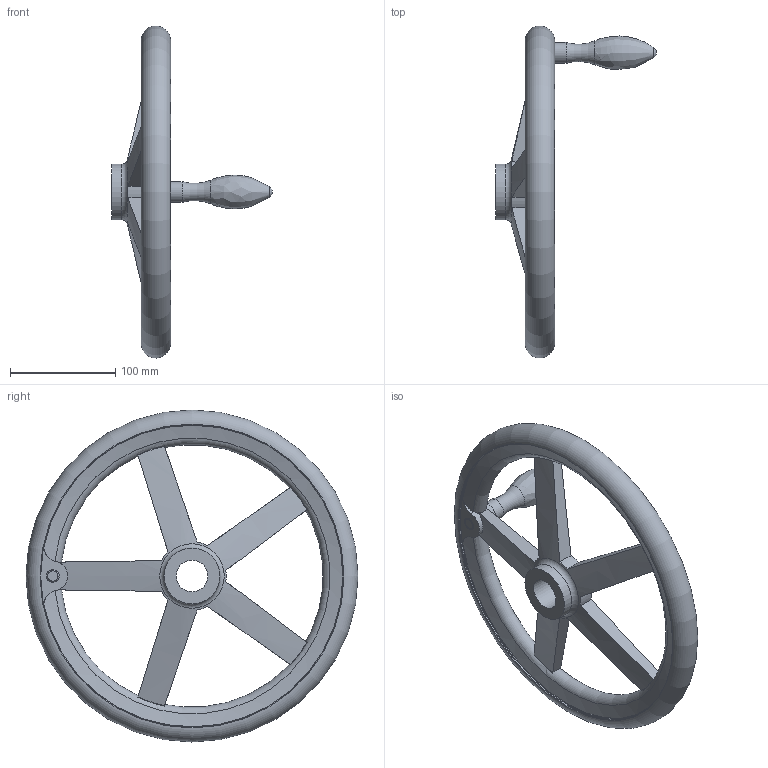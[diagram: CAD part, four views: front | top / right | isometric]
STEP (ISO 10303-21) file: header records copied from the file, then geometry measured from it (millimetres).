
FILE_DESCRIPTION( ( 'STEP AP203' ), '1' );
FILE_NAME( 'C:/Temp/Ganter_Step_05_03_2020/data/1_3/din_950/din_950_b/din_950_b_f/Handwheel DIN 950-GG-315-B30-F.stp', '2020-03-05T10:30:20', ( 'License CC BY-ND 4.0' ), ( 'CADENAS' ), ' ', 'PARTsolutions', ' ' );
FILE_SCHEMA( ( 'CONFIG_CONTROL_DESIGN' ) );
Length unit declared in the file: millimetre
Products named in the file (1): _Handwheel DIN 950-GG-315-B30-F
Bounding box: 152.5 x 314.93 x 314.93 mm (x, y, z)
Volume: 849391.7 mm3; surface area: 143329.6 mm2
Topology: 1 solids, 1 shells, 61 faces, 179 edges, 115 vertices
Faces by surface type: torus 21, cylinder 18, plane 15, cone 5, bspline 1, sphere 1
Full cylindrical faces by diameter (mm): 12 x1, 19.8 x1, 30 x1, 53 x2, 287 x2
Entity records: 2530 total; most frequent: CARTESIAN_POINT 1046, ORIENTED_EDGE 306, DIRECTION 270, EDGE_CURVE 153, AXIS2_PLACEMENT_3D 128, VERTEX_POINT 111, EDGE_LOOP 88, FACE_OUTER_BOUND 77
